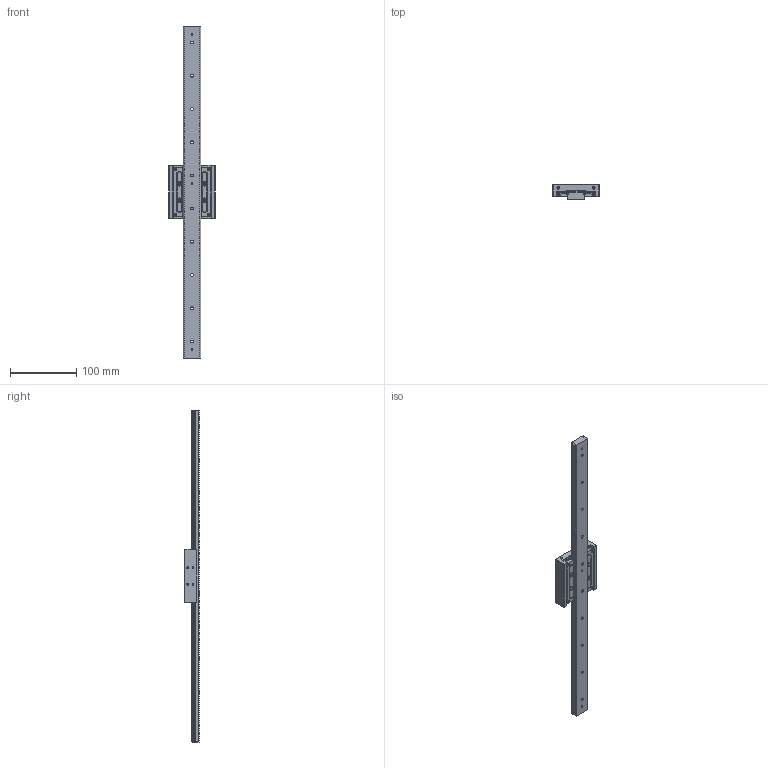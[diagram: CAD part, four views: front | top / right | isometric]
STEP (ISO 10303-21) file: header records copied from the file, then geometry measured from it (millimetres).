
FILE_DESCRIPTION(/* description */ ('TAVOLA TRKD03 L=500'),/* implementation_level */ '2;1');
FILE_NAME(/* name */ 'TRKD030500-00.stp',/* time_stamp */ '2024-01-24T16:00:50+01:00',/* author */ ('Rosa sistemi'),/* organization */ (''),/* preprocessor_version */ 'ST-DEVELOPER v20',/* originating_system */ 'Autodesk Inventor 2024',/* authorisation */ '');
FILE_SCHEMA (('AUTOMOTIVE_DESIGN { 1 0 10303 214 3 1 1 }'));
Length unit declared in the file: millimetre
Products named in the file (2): TRKD030500-00; TRKD030500-00_1
Assembly tree (1 placements, depth 2):
  TRKD030500-00
    TRKD030500-00_1
Bounding box: 70 x 22.5 x 500 mm (x, y, z)
Volume: 222606.7 mm3; surface area: 69734.5 mm2
Topology: 42 solids, 42 shells, 675 faces, 1738 edges, 1103 vertices
Faces by surface type: plane 405, cylinder 91, cone 79, sphere 48, bspline 36, torus 16
Full cylindrical faces by diameter (mm): 1.5 x2, 1.889 x1, 2.459 x2, 3 x5, 3.242 x16, 4 x7, 4.134 x10, 5.195 x1, 6 x4, 7 x4, 7.5 x14
Entity records: 21095 total; most frequent: CARTESIAN_POINT 4383, ORIENTED_EDGE 3260, DIRECTION 3184, EDGE_CURVE 1630, VERTEX_POINT 1103, AXIS2_PLACEMENT_3D 1074, LINE 1036, VECTOR 1036
